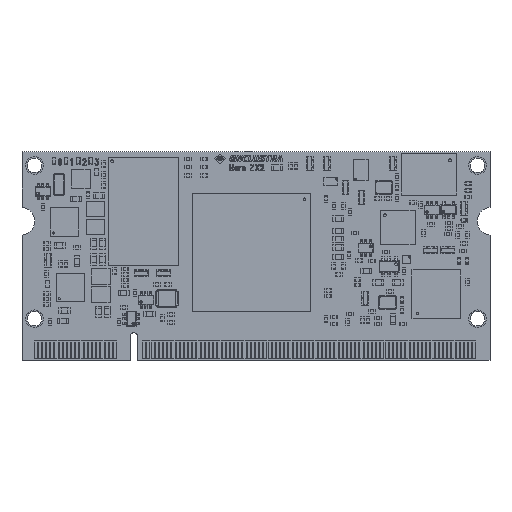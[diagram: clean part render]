
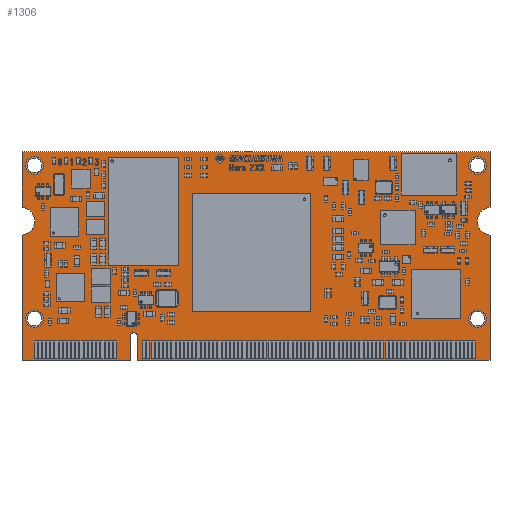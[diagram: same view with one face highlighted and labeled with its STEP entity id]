
A CAD part, top view. The second image highlights one B-rep face of the part: STEP entity #1306.
In plain terms, the highlighted planar face has unit normal (0, 0, 1).
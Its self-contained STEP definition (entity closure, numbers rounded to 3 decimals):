
#771 = VERTEX_POINT('',#772);
#772 = CARTESIAN_POINT('',(0.,0.,0.));
#778 = EDGE_CURVE('',#771,#779,#781,.T.);
#779 = VERTEX_POINT('',#780);
#780 = CARTESIAN_POINT('',(15.55,0.,0.));
#781 = LINE('',#782,#783);
#782 = CARTESIAN_POINT('',(0.,0.,0.));
#783 = VECTOR('',#784,1.);
#784 = DIRECTION('',(1.,0.,0.));
#809 = EDGE_CURVE('',#779,#810,#812,.T.);
#810 = VERTEX_POINT('',#811);
#811 = CARTESIAN_POINT('',(15.55,3.5,0.));
#812 = LINE('',#813,#814);
#813 = CARTESIAN_POINT('',(15.55,0.,0.));
#814 = VECTOR('',#815,1.);
#815 = DIRECTION('',(0.,1.,0.));
#840 = EDGE_CURVE('',#810,#841,#843,.T.);
#841 = VERTEX_POINT('',#842);
#842 = CARTESIAN_POINT('',(16.55,3.5,0.));
#843 = CIRCLE('',#844,0.5);
#844 = AXIS2_PLACEMENT_3D('',#845,#846,#847);
#845 = CARTESIAN_POINT('',(16.05,3.5,0.));
#846 = DIRECTION('',(0.,0.,-1.));
#847 = DIRECTION('',(-1.,0.,0.));
#873 = EDGE_CURVE('',#841,#874,#876,.T.);
#874 = VERTEX_POINT('',#875);
#875 = CARTESIAN_POINT('',(16.55,0.,0.));
#876 = LINE('',#877,#878);
#877 = CARTESIAN_POINT('',(16.55,3.5,0.));
#878 = VECTOR('',#879,1.);
#879 = DIRECTION('',(0.,-1.,0.));
#904 = EDGE_CURVE('',#874,#905,#907,.T.);
#905 = VERTEX_POINT('',#906);
#906 = CARTESIAN_POINT('',(67.2,0.,0.));
#907 = LINE('',#908,#909);
#908 = CARTESIAN_POINT('',(16.55,0.,0.));
#909 = VECTOR('',#910,1.);
#910 = DIRECTION('',(1.,0.,0.));
#935 = EDGE_CURVE('',#905,#936,#938,.T.);
#936 = VERTEX_POINT('',#937);
#937 = CARTESIAN_POINT('',(67.2,18.,0.));
#938 = LINE('',#939,#940);
#939 = CARTESIAN_POINT('',(67.2,0.,0.));
#940 = VECTOR('',#941,1.);
#941 = DIRECTION('',(0.,1.,0.));
#966 = EDGE_CURVE('',#936,#967,#969,.T.);
#967 = VERTEX_POINT('',#968);
#968 = CARTESIAN_POINT('',(67.2,22.,0.));
#969 = CIRCLE('',#970,2.01);
#970 = AXIS2_PLACEMENT_3D('',#971,#972,#973);
#971 = CARTESIAN_POINT('',(67.4,20.,0.));
#972 = DIRECTION('',(0.,0.,-1.));
#973 = DIRECTION('',(-0.099,-0.995,0.));
#999 = EDGE_CURVE('',#967,#1000,#1002,.T.);
#1000 = VERTEX_POINT('',#1001);
#1001 = CARTESIAN_POINT('',(67.2,30.,0.));
#1002 = LINE('',#1003,#1004);
#1003 = CARTESIAN_POINT('',(67.2,22.,0.));
#1004 = VECTOR('',#1005,1.);
#1005 = DIRECTION('',(0.,1.,0.));
#1030 = EDGE_CURVE('',#1000,#1031,#1033,.T.);
#1031 = VERTEX_POINT('',#1032);
#1032 = CARTESIAN_POINT('',(0.,30.,0.));
#1033 = LINE('',#1034,#1035);
#1034 = CARTESIAN_POINT('',(67.2,30.,0.));
#1035 = VECTOR('',#1036,1.);
#1036 = DIRECTION('',(-1.,0.,0.));
#1061 = EDGE_CURVE('',#1031,#1062,#1064,.T.);
#1062 = VERTEX_POINT('',#1063);
#1063 = CARTESIAN_POINT('',(0.,22.,0.));
#1064 = LINE('',#1065,#1066);
#1065 = CARTESIAN_POINT('',(0.,30.,0.));
#1066 = VECTOR('',#1067,1.);
#1067 = DIRECTION('',(0.,-1.,0.));
#1092 = EDGE_CURVE('',#1062,#1093,#1095,.T.);
#1093 = VERTEX_POINT('',#1094);
#1094 = CARTESIAN_POINT('',(0.,18.,0.));
#1095 = CIRCLE('',#1096,2.01);
#1096 = AXIS2_PLACEMENT_3D('',#1097,#1098,#1099);
#1097 = CARTESIAN_POINT('',(-0.2,20.,0.));
#1098 = DIRECTION('',(0.,0.,-1.));
#1099 = DIRECTION('',(0.099,0.995,0.));
#1125 = EDGE_CURVE('',#1093,#771,#1126,.T.);
#1126 = LINE('',#1127,#1128);
#1127 = CARTESIAN_POINT('',(0.,18.,0.));
#1128 = VECTOR('',#1129,1.);
#1129 = DIRECTION('',(0.,-1.,0.));
#1149 = VERTEX_POINT('',#1150);
#1150 = CARTESIAN_POINT('',(2.85,6.,0.));
#1156 = EDGE_CURVE('',#1149,#1149,#1157,.T.);
#1157 = CIRCLE('',#1158,1.05);
#1158 = AXIS2_PLACEMENT_3D('',#1159,#1160,#1161);
#1159 = CARTESIAN_POINT('',(1.8,6.,0.));
#1160 = DIRECTION('',(0.,0.,1.));
#1161 = DIRECTION('',(1.,0.,0.));
#1182 = VERTEX_POINT('',#1183);
#1183 = CARTESIAN_POINT('',(2.85,28.,0.));
#1189 = EDGE_CURVE('',#1182,#1182,#1190,.T.);
#1190 = CIRCLE('',#1191,1.05);
#1191 = AXIS2_PLACEMENT_3D('',#1192,#1193,#1194);
#1192 = CARTESIAN_POINT('',(1.8,28.,0.));
#1193 = DIRECTION('',(0.,0.,1.));
#1194 = DIRECTION('',(1.,0.,0.));
#1215 = VERTEX_POINT('',#1216);
#1216 = CARTESIAN_POINT('',(66.45,6.,0.));
#1222 = EDGE_CURVE('',#1215,#1215,#1223,.T.);
#1223 = CIRCLE('',#1224,1.05);
#1224 = AXIS2_PLACEMENT_3D('',#1225,#1226,#1227);
#1225 = CARTESIAN_POINT('',(65.4,6.,0.));
#1226 = DIRECTION('',(0.,0.,1.));
#1227 = DIRECTION('',(1.,0.,0.));
#1248 = VERTEX_POINT('',#1249);
#1249 = CARTESIAN_POINT('',(66.45,28.,0.));
#1255 = EDGE_CURVE('',#1248,#1248,#1256,.T.);
#1256 = CIRCLE('',#1257,1.05);
#1257 = AXIS2_PLACEMENT_3D('',#1258,#1259,#1260);
#1258 = CARTESIAN_POINT('',(65.4,28.,0.));
#1259 = DIRECTION('',(0.,0.,1.));
#1260 = DIRECTION('',(1.,0.,0.));
#1306 = ADVANCED_FACE('',(#1307,#1321,#1324,#1327,#1330),#1333,.F.);
#1307 = FACE_BOUND('',#1308,.T.);
#1308 = EDGE_LOOP('',(#1309,#1310,#1311,#1312,#1313,#1314,#1315,#1316,
    #1317,#1318,#1319,#1320));
#1309 = ORIENTED_EDGE('',*,*,#778,.T.);
#1310 = ORIENTED_EDGE('',*,*,#809,.T.);
#1311 = ORIENTED_EDGE('',*,*,#840,.T.);
#1312 = ORIENTED_EDGE('',*,*,#873,.T.);
#1313 = ORIENTED_EDGE('',*,*,#904,.T.);
#1314 = ORIENTED_EDGE('',*,*,#935,.T.);
#1315 = ORIENTED_EDGE('',*,*,#966,.T.);
#1316 = ORIENTED_EDGE('',*,*,#999,.T.);
#1317 = ORIENTED_EDGE('',*,*,#1030,.T.);
#1318 = ORIENTED_EDGE('',*,*,#1061,.T.);
#1319 = ORIENTED_EDGE('',*,*,#1092,.T.);
#1320 = ORIENTED_EDGE('',*,*,#1125,.T.);
#1321 = FACE_BOUND('',#1322,.F.);
#1322 = EDGE_LOOP('',(#1323));
#1323 = ORIENTED_EDGE('',*,*,#1156,.T.);
#1324 = FACE_BOUND('',#1325,.F.);
#1325 = EDGE_LOOP('',(#1326));
#1326 = ORIENTED_EDGE('',*,*,#1189,.T.);
#1327 = FACE_BOUND('',#1328,.F.);
#1328 = EDGE_LOOP('',(#1329));
#1329 = ORIENTED_EDGE('',*,*,#1222,.T.);
#1330 = FACE_BOUND('',#1331,.F.);
#1331 = EDGE_LOOP('',(#1332));
#1332 = ORIENTED_EDGE('',*,*,#1255,.T.);
#1333 = PLANE('',#1334);
#1334 = AXIS2_PLACEMENT_3D('',#1335,#1336,#1337);
#1335 = CARTESIAN_POINT('',(0.,0.,0.));
#1336 = DIRECTION('',(0.,0.,-1.));
#1337 = DIRECTION('',(-1.,0.,0.));
